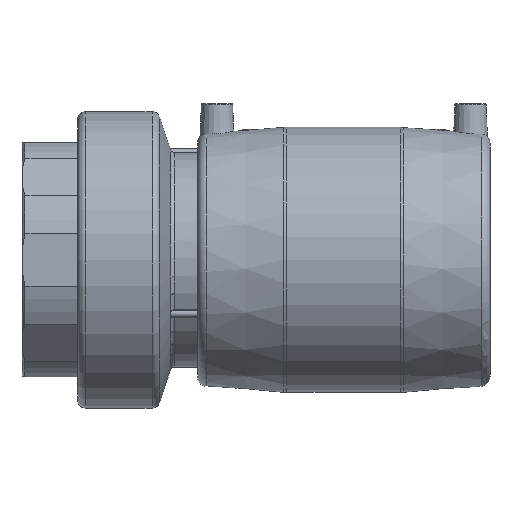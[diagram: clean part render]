
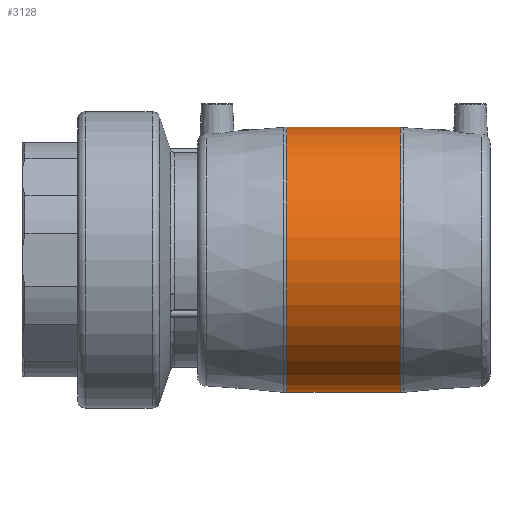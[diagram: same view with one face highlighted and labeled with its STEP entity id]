
A CAD part, front view. The second image highlights one B-rep face of the part: STEP entity #3128.
In plain terms, the highlighted cylindrical face has radius 68 mm (diameter 136 mm), a full revolution.
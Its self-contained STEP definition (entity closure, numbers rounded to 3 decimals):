
#540=CYLINDRICAL_SURFACE('',#3920,68.);
#612=CIRCLE('',#3921,68.);
#613=CIRCLE('',#3922,68.);
#829=ORIENTED_EDGE('',*,*,#1725,.T.);
#830=ORIENTED_EDGE('',*,*,#1726,.T.);
#1725=EDGE_CURVE('',#2172,#2172,#612,.F.);
#1726=EDGE_CURVE('',#2173,#2173,#613,.T.);
#2172=VERTEX_POINT('',#5418);
#2173=VERTEX_POINT('',#5420);
#2535=EDGE_LOOP('',(#829));
#2536=EDGE_LOOP('',(#830));
#2823=FACE_BOUND('',#2535,.T.);
#2824=FACE_BOUND('',#2536,.T.);
#3128=ADVANCED_FACE('',(#2823,#2824),#540,.T.);
#3920=AXIS2_PLACEMENT_3D('',#5416,#4343,#4344);
#3921=AXIS2_PLACEMENT_3D('',#5417,#4345,#4346);
#3922=AXIS2_PLACEMENT_3D('',#5419,#4347,#4348);
#4343=DIRECTION('',(-1.,0.,0.));
#4344=DIRECTION('',(0.,0.,1.));
#4345=DIRECTION('',(1.,0.,0.));
#4346=DIRECTION('',(0.,0.,-1.));
#4347=DIRECTION('',(1.,0.,0.));
#4348=DIRECTION('',(0.,0.,-1.));
#5416=CARTESIAN_POINT('',(-60.,0.,0.));
#5417=CARTESIAN_POINT('',(29.223,0.,0.));
#5418=CARTESIAN_POINT('',(29.223,0.,-68.));
#5419=CARTESIAN_POINT('',(-29.223,0.,0.));
#5420=CARTESIAN_POINT('',(-29.223,0.,-68.));
